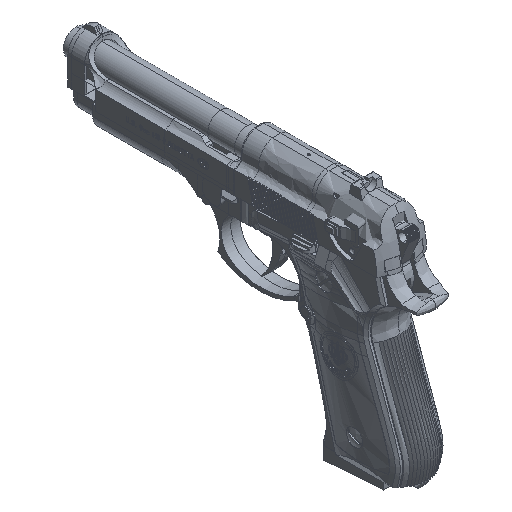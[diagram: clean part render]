
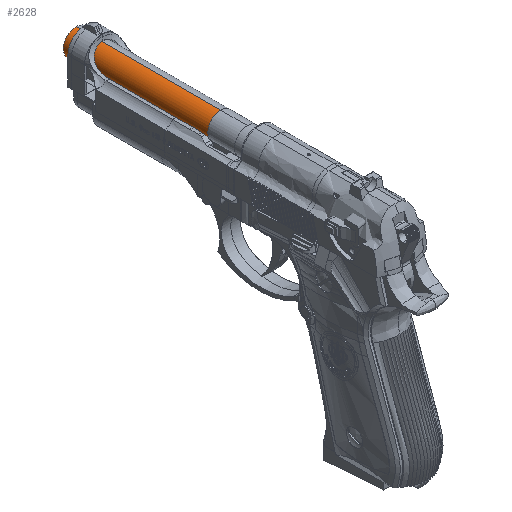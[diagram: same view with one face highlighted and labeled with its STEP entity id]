
A CAD part, isometric view. The second image highlights one B-rep face of the part: STEP entity #2628.
In plain terms, the highlighted free-form (B-spline) face has degree [3, 1] with [19, 2] control points.
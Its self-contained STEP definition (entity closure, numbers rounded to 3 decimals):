
#2628=ADVANCED_FACE($,(#6197),#50422,.T.);
#6197=FACE_OUTER_BOUND($,#9828,.T.);
#9828=EDGE_LOOP($,(#17906,#17907,#17908,#17909,#17910,#17911));
#17906=ORIENTED_EDGE($,*,*,#34385,.T.);
#17907=ORIENTED_EDGE($,*,*,#34378,.F.);
#17908=ORIENTED_EDGE($,*,*,#34333,.F.);
#17909=ORIENTED_EDGE($,*,*,#34341,.T.);
#17910=ORIENTED_EDGE($,*,*,#34334,.T.);
#17911=ORIENTED_EDGE($,*,*,#34335,.T.);
#34333=EDGE_CURVE($,#43273,#43290,#53869,.T.);
#34334=EDGE_CURVE($,#43274,#43288,#53870,.T.);
#34335=EDGE_CURVE($,#43288,#43294,#53871,.T.);
#34341=EDGE_CURVE($,#43273,#43274,#53877,.T.);
#34378=EDGE_CURVE($,#43290,#43295,#53907,.T.);
#34385=EDGE_CURVE($,#43294,#43295,#53913,.T.);
#43273=VERTEX_POINT($,#85793);
#43274=VERTEX_POINT($,#85794);
#43288=VERTEX_POINT($,#85808);
#43290=VERTEX_POINT($,#85810);
#43294=VERTEX_POINT($,#85814);
#43295=VERTEX_POINT($,#85815);
#50422=B_SPLINE_SURFACE_WITH_KNOTS($,3,1,((#85580,#85581),(#85582,#85583),
(#85584,#85585),(#85586,#85587),(#85588,#85589),(#85590,#85591),(#85592,
#85593),(#85594,#85595),(#85596,#85597),(#85598,#85599),(#85600,#85601),
(#85602,#85603),(#85604,#85605),(#85606,#85607),(#85608,#85609),(#85610,
#85611),(#85612,#85613),(#85614,#85615),(#85616,#85617)),.UNSPECIFIED.,.F.,
.F.,.F.,(4,1,2,2,2,2,2,2,2,4),(2,2),(0.,1.459,2.918,
5.836,8.754,11.671,14.589,17.507,
20.425,23.343),(15.504,99.79),.UNSPECIFIED.);
#53869=B_SPLINE_CURVE_WITH_KNOTS($,1,(#84876,#84877),.UNSPECIFIED.,.F.,.F.,
(2,2),(15.504,99.29),.UNSPECIFIED.);
#53870=B_SPLINE_CURVE_WITH_KNOTS($,3,(#84878,#84879,#84880,#84881),.UNSPECIFIED.,
.F.,.F.,(4,4),(18.501,18.51),.UNSPECIFIED.);
#53871=B_SPLINE_CURVE_WITH_KNOTS($,3,(#84882,#84883,#84884,#84885,#84886,
#84887),.UNSPECIFIED.,.F.,.F.,(4,2,4),(18.51,20.425,
23.343),.UNSPECIFIED.);
#53877=B_SPLINE_CURVE_WITH_KNOTS($,3,(#84929,#84930,#84931,#84932,#84933,
#84934,#84935,#84936,#84937,#84938),.UNSPECIFIED.,.F.,.F.,(4,2,2,2,4),(0.,
4.624,9.247,13.871,18.494),.UNSPECIFIED.);
#53907=B_SPLINE_CURVE_WITH_KNOTS($,3,(#85094,#85095,#85096,#85097,#85098,
#85099,#85100,#85101,#85102,#85103,#85104,#85105,#85106,#85107,#85108,#85109,
#85110,#85111,#85112,#85113,#85114,#85115),.UNSPECIFIED.,.F.,.F.,(4,1,1,
1,1,1,1,1,1,1,1,1,3,3,1,4),(0.,1.94,2.881,3.813,
4.744,5.664,7.561,9.51,10.489,
11.467,12.418,13.353,15.149,17.672,
18.896,20.194),.UNSPECIFIED.);
#53913=B_SPLINE_CURVE_WITH_KNOTS($,1,(#85206,#85207),.UNSPECIFIED.,.F.,.F.,
(2,2),(15.504,99.29),.UNSPECIFIED.);
#84876=CARTESIAN_POINT($,(-0.626,2.915,30.543));
#84877=CARTESIAN_POINT($,(-0.625,86.701,30.54));
#84878=CARTESIAN_POINT($,(-5.142,2.915,17.206));
#84879=CARTESIAN_POINT($,(-5.139,2.915,17.205));
#84880=CARTESIAN_POINT($,(-5.137,2.915,17.203));
#84881=CARTESIAN_POINT($,(-5.142,2.915,17.192));
#84882=CARTESIAN_POINT($,(-5.142,2.915,17.192));
#84883=CARTESIAN_POINT($,(-4.623,2.915,16.813));
#84884=CARTESIAN_POINT($,(-4.06,2.915,16.488));
#84885=CARTESIAN_POINT($,(-2.582,2.915,15.876));
#84886=CARTESIAN_POINT($,(-1.605,2.915,15.68));
#84887=CARTESIAN_POINT($,(-0.632,2.915,15.68));
#84929=CARTESIAN_POINT($,(-0.626,2.915,30.543));
#84930=CARTESIAN_POINT($,(-2.166,2.915,30.547));
#84931=CARTESIAN_POINT($,(-3.708,2.915,30.051));
#84932=CARTESIAN_POINT($,(-6.215,2.915,28.253));
#84933=CARTESIAN_POINT($,(-7.175,2.915,26.957));
#84934=CARTESIAN_POINT($,(-8.166,2.915,24.033));
#84935=CARTESIAN_POINT($,(-8.19,2.915,22.416));
#84936=CARTESIAN_POINT($,(-7.291,2.915,19.468));
#84937=CARTESIAN_POINT($,(-6.373,2.915,18.141));
#84938=CARTESIAN_POINT($,(-5.142,2.915,17.206));
#85094=CARTESIAN_POINT($,(-0.625,86.701,30.54));
#85095=CARTESIAN_POINT($,(-1.376,86.701,30.541));
#85096=CARTESIAN_POINT($,(-2.479,86.701,30.371));
#85097=CARTESIAN_POINT($,(-3.855,86.701,29.832));
#85098=CARTESIAN_POINT($,(-4.791,86.701,29.292));
#85099=CARTESIAN_POINT($,(-5.638,86.701,28.631));
#85100=CARTESIAN_POINT($,(-6.637,86.701,27.58));
#85101=CARTESIAN_POINT($,(-7.593,86.701,25.993));
#85102=CARTESIAN_POINT($,(-8.046,86.701,24.167));
#85103=CARTESIAN_POINT($,(-8.07,86.701,22.659));
#85104=CARTESIAN_POINT($,(-7.914,86.701,21.545));
#85105=CARTESIAN_POINT($,(-7.606,86.701,20.488));
#85106=CARTESIAN_POINT($,(-7.001,86.701,19.188));
#85107=CARTESIAN_POINT($,(-6.371,86.701,18.352));
#85108=CARTESIAN_POINT($,(-5.877,86.701,17.855));
#85109=CARTESIAN_POINT($,(-5.186,86.701,17.168));
#85110=CARTESIAN_POINT($,(-4.37,86.701,16.622));
#85111=CARTESIAN_POINT($,(-3.468,86.701,16.247));
#85112=CARTESIAN_POINT($,(-3.032,86.701,16.067));
#85113=CARTESIAN_POINT($,(-2.1,86.701,15.782));
#85114=CARTESIAN_POINT($,(-1.13,86.701,15.682));
#85115=CARTESIAN_POINT($,(-0.631,86.701,15.681));
#85206=CARTESIAN_POINT($,(-0.632,2.915,15.68));
#85207=CARTESIAN_POINT($,(-0.631,86.701,15.681));
#85580=CARTESIAN_POINT($,(-0.627,2.915,30.543));
#85581=CARTESIAN_POINT($,(-0.625,87.201,30.54));
#85582=CARTESIAN_POINT($,(-1.113,2.915,30.543));
#85583=CARTESIAN_POINT($,(-1.11,87.201,30.541));
#85584=CARTESIAN_POINT($,(-2.085,2.915,30.448));
#85585=CARTESIAN_POINT($,(-2.074,87.201,30.447));
#85586=CARTESIAN_POINT($,(-3.018,2.915,30.165));
#85587=CARTESIAN_POINT($,(-3.023,87.201,30.159));
#85588=CARTESIAN_POINT($,(-4.365,2.915,29.61));
#85589=CARTESIAN_POINT($,(-4.356,87.201,29.609));
#85590=CARTESIAN_POINT($,(-5.203,2.915,29.05));
#85591=CARTESIAN_POINT($,(-5.202,87.201,29.044));
#85592=CARTESIAN_POINT($,(-6.567,2.915,27.683));
#85593=CARTESIAN_POINT($,(-6.559,87.201,27.683));
#85594=CARTESIAN_POINT($,(-7.119,2.915,26.865));
#85595=CARTESIAN_POINT($,(-7.116,87.201,26.856));
#85596=CARTESIAN_POINT($,(-7.87,2.915,25.047));
#85597=CARTESIAN_POINT($,(-7.861,87.201,25.053));
#85598=CARTESIAN_POINT($,(-8.059,2.915,24.097));
#85599=CARTESIAN_POINT($,(-8.052,87.201,24.088));
#85600=CARTESIAN_POINT($,(-8.061,2.915,22.136));
#85601=CARTESIAN_POINT($,(-8.056,87.201,22.147));
#85602=CARTESIAN_POINT($,(-7.869,2.915,21.174));
#85603=CARTESIAN_POINT($,(-7.857,87.201,21.156));
#85604=CARTESIAN_POINT($,(-7.124,2.915,19.369));
#85605=CARTESIAN_POINT($,(-7.122,87.201,19.38));
#85606=CARTESIAN_POINT($,(-6.574,2.915,18.549));
#85607=CARTESIAN_POINT($,(-6.557,87.201,18.534));
#85608=CARTESIAN_POINT($,(-5.207,2.915,17.176));
#85609=CARTESIAN_POINT($,(-5.197,87.201,17.177));
#85610=CARTESIAN_POINT($,(-4.367,2.915,16.615));
#85611=CARTESIAN_POINT($,(-4.369,87.201,16.62));
#85612=CARTESIAN_POINT($,(-2.582,2.915,15.876));
#85613=CARTESIAN_POINT($,(-2.566,87.201,15.874));
#85614=CARTESIAN_POINT($,(-1.605,2.915,15.68));
#85615=CARTESIAN_POINT($,(-1.601,87.201,15.683));
#85616=CARTESIAN_POINT($,(-0.632,2.915,15.68));
#85617=CARTESIAN_POINT($,(-0.631,87.201,15.681));
#85793=CARTESIAN_POINT($,(-0.626,2.915,30.543));
#85794=CARTESIAN_POINT($,(-5.142,2.915,17.206));
#85808=CARTESIAN_POINT($,(-5.142,2.915,17.192));
#85810=CARTESIAN_POINT($,(-0.625,86.701,30.54));
#85814=CARTESIAN_POINT($,(-0.632,2.915,15.68));
#85815=CARTESIAN_POINT($,(-0.631,86.701,15.681));
